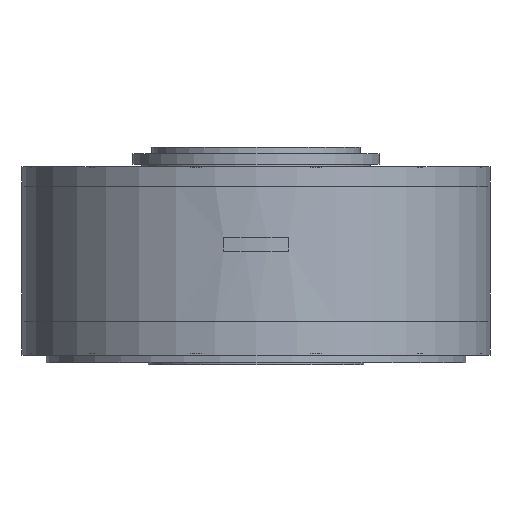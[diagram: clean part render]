
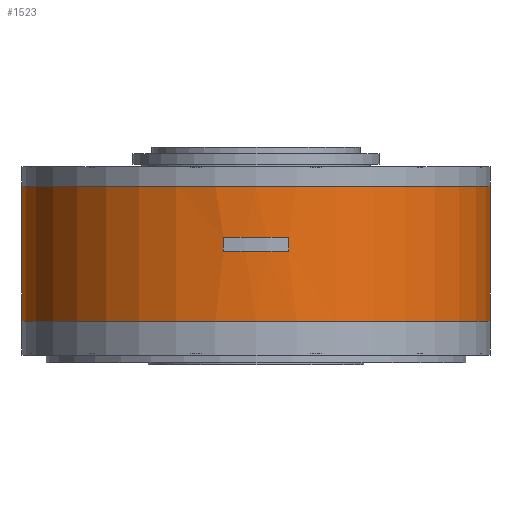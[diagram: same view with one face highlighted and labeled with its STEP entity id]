
A CAD part, front view. The second image highlights one B-rep face of the part: STEP entity #1523.
In plain terms, the highlighted cylindrical face has radius 180 mm (diameter 360 mm), a partial arc.
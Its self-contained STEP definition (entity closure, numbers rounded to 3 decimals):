
#146 = EDGE_LOOP ( 'NONE', ( #8553, #8554, #8555, #8556 ) ) ;
#1288 = FACE_OUTER_BOUND ( 'NONE', #146, .T. ) ;
#1289 = FACE_BOUND ( 'NONE', #4539, .T. ) ;
#1295 = CYLINDRICAL_SURFACE ( 'NONE', #10995, 180. ) ;
#1523 = ADVANCED_FACE ( 'NONE', ( #1288, #1289 ), #1295, .T. ) ;
#1645 = EDGE_CURVE ( 'NONE', #11346, #11365, #2214, .T. ) ;
#1655 = EDGE_CURVE ( 'NONE', #13221, #13024, #2240, .T. ) ;
#1805 = EDGE_CURVE ( 'NONE', #13305, #11144, #15129, .T. ) ;
#1806 = EDGE_CURVE ( 'NONE', #11346, #13221, #15134, .T. ) ;
#1807 = EDGE_CURVE ( 'NONE', #13261, #13305, #15136, .T. ) ;
#1808 = EDGE_CURVE ( 'NONE', #13024, #11365, #15137, .T. ) ;
#1809 = EDGE_CURVE ( 'NONE', #13140, #13261, #15133, .T. ) ;
#1810 = EDGE_CURVE ( 'NONE', #11144, #13140, #15139, .T. ) ;
#2020 = DIRECTION ( 'NONE',  ( 0., 0., 1. ) ) ;
#2022 = CARTESIAN_POINT ( 'NONE',  ( -180., 0., 0. ) ) ;
#2078 = DIRECTION ( 'NONE',  ( 0., 0., 1. ) ) ;
#2121 = CARTESIAN_POINT ( 'NONE',  ( 180., 0., 0. ) ) ;
#2193 = VECTOR ( 'NONE', #2078, 1000. ) ;
#2214 = LINE ( 'NONE', #2121, #2193 ) ;
#2240 = LINE ( 'NONE', #2022, #2242 ) ;
#2242 = VECTOR ( 'NONE', #2020, 1000. ) ;
#2706 = CARTESIAN_POINT ( 'NONE',  ( 0., 0., 129.9 ) ) ;
#2709 = DIRECTION ( 'NONE',  ( 0., 0., -1. ) ) ;
#2716 = CARTESIAN_POINT ( 'NONE',  ( 0., 0., 90.5 ) ) ;
#2723 = CARTESIAN_POINT ( 'NONE',  ( -25., -178.255, 0. ) ) ;
#2733 = DIRECTION ( 'NONE',  ( 0., 0., -1. ) ) ;
#2739 = CARTESIAN_POINT ( 'NONE',  ( 0., 0., 80. ) ) ;
#2763 = DIRECTION ( 'NONE',  ( -1., 0., 0. ) ) ;
#2768 = CARTESIAN_POINT ( 'NONE',  ( 0., 0., 26.1 ) ) ;
#4539 = EDGE_LOOP ( 'NONE', ( #8557, #8558, #8559, #8560 ) ) ;
#5223 = CARTESIAN_POINT ( 'NONE',  ( -25., -178.255, 80. ) ) ;
#8553 = ORIENTED_EDGE ( 'NONE', *, *, #1655, .F. ) ;
#8554 = ORIENTED_EDGE ( 'NONE', *, *, #1806, .F. ) ;
#8555 = ORIENTED_EDGE ( 'NONE', *, *, #1645, .T. ) ;
#8556 = ORIENTED_EDGE ( 'NONE', *, *, #1808, .F. ) ;
#8557 = ORIENTED_EDGE ( 'NONE', *, *, #1807, .F. ) ;
#8558 = ORIENTED_EDGE ( 'NONE', *, *, #1809, .F. ) ;
#8559 = ORIENTED_EDGE ( 'NONE', *, *, #1810, .F. ) ;
#8560 = ORIENTED_EDGE ( 'NONE', *, *, #1805, .F. ) ;
#9731 = DIRECTION ( 'NONE',  ( 0., 0., 1. ) ) ;
#9770 = DIRECTION ( 'NONE',  ( 1., 0., 0. ) ) ;
#9775 = CARTESIAN_POINT ( 'NONE',  ( 0., 0., 0. ) ) ;
#9878 = DIRECTION ( 'NONE',  ( 1., 0., 0. ) ) ;
#9893 = DIRECTION ( 'NONE',  ( 0., 0., 1. ) ) ;
#10995 = AXIS2_PLACEMENT_3D ( 'NONE', #9775, #9893, #9878 ) ;
#11144 = VERTEX_POINT ( 'NONE', #5223 ) ;
#11346 = VERTEX_POINT ( 'NONE', #13637 ) ;
#11365 = VERTEX_POINT ( 'NONE', #13656 ) ;
#11961 = DIRECTION ( 'NONE',  ( 1., 0., 0. ) ) ;
#11962 = DIRECTION ( 'NONE',  ( 0., 0., 1. ) ) ;
#11963 = DIRECTION ( 'NONE',  ( 0., 0., 1. ) ) ;
#11966 = DIRECTION ( 'NONE',  ( 0., 0., -1. ) ) ;
#11967 = CARTESIAN_POINT ( 'NONE',  ( 25., -178.255, 0. ) ) ;
#11968 = DIRECTION ( 'NONE',  ( -1., 0., 0. ) ) ;
#12170 = AXIS2_PLACEMENT_3D ( 'NONE', #2716, #11966, #11968 ) ;
#12173 = AXIS2_PLACEMENT_3D ( 'NONE', #2768, #2733, #2763 ) ;
#12174 = AXIS2_PLACEMENT_3D ( 'NONE', #2706, #11963, #11961 ) ;
#12176 = AXIS2_PLACEMENT_3D ( 'NONE', #2739, #9731, #9770 ) ;
#13024 = VERTEX_POINT ( 'NONE', #14605 ) ;
#13140 = VERTEX_POINT ( 'NONE', #14721 ) ;
#13221 = VERTEX_POINT ( 'NONE', #14802 ) ;
#13261 = VERTEX_POINT ( 'NONE', #14842 ) ;
#13305 = VERTEX_POINT ( 'NONE', #14886 ) ;
#13637 = CARTESIAN_POINT ( 'NONE',  ( 180., 0., 26.1 ) ) ;
#13656 = CARTESIAN_POINT ( 'NONE',  ( 180., 0., 129.9 ) ) ;
#14605 = CARTESIAN_POINT ( 'NONE',  ( -180., 0., 129.9 ) ) ;
#14721 = CARTESIAN_POINT ( 'NONE',  ( 25., -178.255, 80. ) ) ;
#14802 = CARTESIAN_POINT ( 'NONE',  ( -180., 0., 26.1 ) ) ;
#14842 = CARTESIAN_POINT ( 'NONE',  ( 25., -178.255, 90.5 ) ) ;
#14886 = CARTESIAN_POINT ( 'NONE',  ( -25., -178.255, 90.5 ) ) ;
#15129 = LINE ( 'NONE', #2723, #15130 ) ;
#15130 = VECTOR ( 'NONE', #2709, 1000. ) ;
#15133 = LINE ( 'NONE', #11967, #15135 ) ;
#15134 = CIRCLE ( 'NONE', #12173, 180. ) ;
#15135 = VECTOR ( 'NONE', #11962, 1000. ) ;
#15136 = CIRCLE ( 'NONE', #12170, 180. ) ;
#15137 = CIRCLE ( 'NONE', #12174, 180. ) ;
#15139 = CIRCLE ( 'NONE', #12176, 180. ) ;
